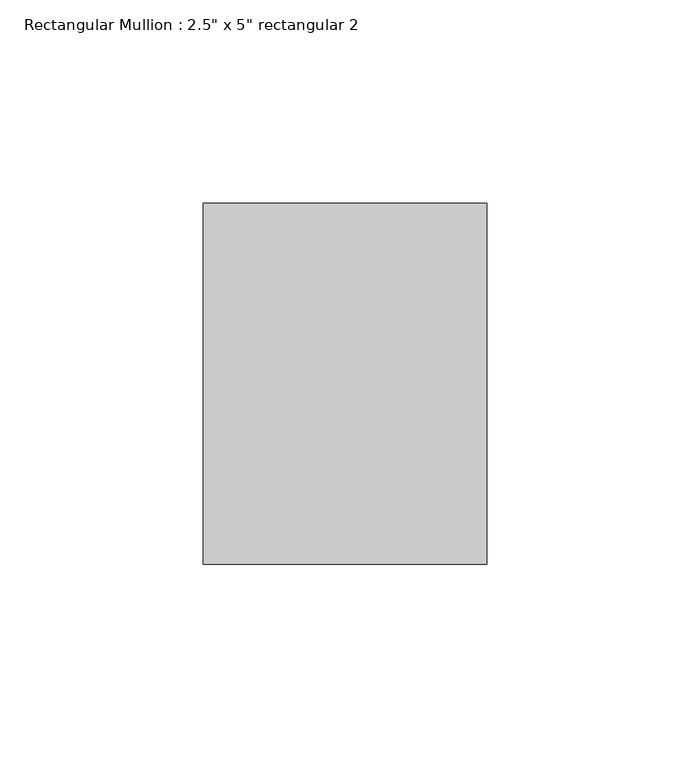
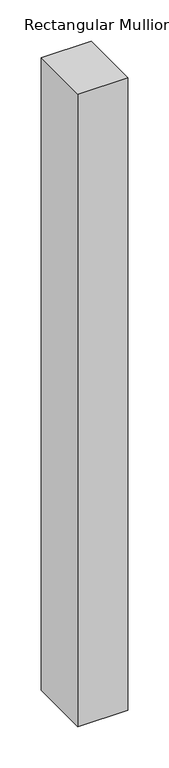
"""IFC4 building model written with IfcOpenShell, lengths in millimetres: member geometry."""

from ifc_helpers import new_model, si_unit, frame, origin, place, context, project, spatial, polyline, outline, extrude, source, transform, mapped, element, save


def member_1d18c5b6(model_context):
    return source(origin(), model_context, "Body", "SweptSolid", [
        extrude(outline(polyline([(0.0, 44.45), (0.0, -44.45), (-69.85, -44.45), (-69.85, 44.45), (0.0, 44.45)])), frame((0.0, 0.0, -936.625), z_axis=(0.0, 0.0, 1.0), x_axis=(1.0, 0.0, 0.0)), (0.0, 0.0, 1.0), 936.625),
    ])


if __name__ == "__main__":
    model = new_model("IFC4")
    model_context = context("Model", 3, world=origin())
    ifc_project = project(units=[si_unit("LENGTHUNIT", "METRE", prefix="MILLI")], contexts=[model_context])
    site = spatial("IfcSite", under=ifc_project)
    building = spatial("IfcBuilding", under=site)
    placement = place(None, origin())
    member_shape = member_1d18c5b6(model_context)
    element("IfcMember", 1, ObjectType="Rectangular Mullion : 2.5\" x 5\" rectangular 2", at=placement, inside=building, context=model_context, shape_type="MappedRepresentation", body=[
        mapped(member_shape, transform((0.0, 0.0, 0.0), x_axis=(1.0, 0.0, 0.0), y_axis=(0.0, 1.0, 0.0), z_axis=(0.0, 0.0, 1.0))),
    ])
    save(model, "model.ifc")
